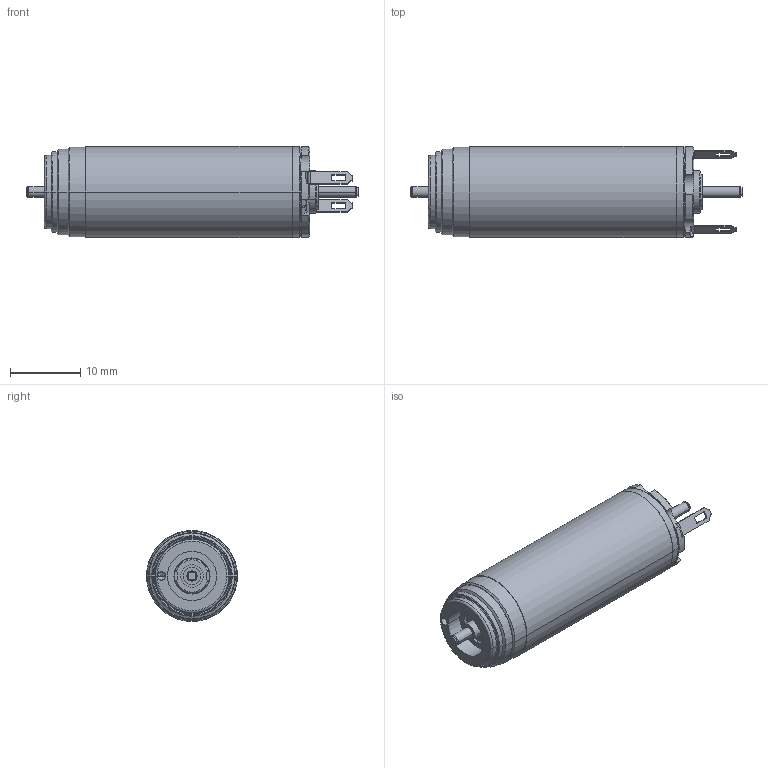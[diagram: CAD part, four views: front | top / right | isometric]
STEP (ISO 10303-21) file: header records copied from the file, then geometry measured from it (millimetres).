
FILE_DESCRIPTION((''),'2;1');
FILE_NAME('118628_3W_2WE_G_SW0001','2016-08-22T',('mmagpetk'),(''),'CREO PARAMETRIC BY PTC INC, 2016050','CREO PARAMETRIC BY PTC INC, 2016050','');
FILE_SCHEMA(('CONFIG_CONTROL_DESIGN'));
Length unit declared in the file: millimetre
Products named in the file (1): 118628_3W_2WE_G_SW0001
Bounding box: 47.4 x 13 x 13 mm (x, y, z)
Volume: 4835.7 mm3; surface area: 2343.6 mm2
Topology: 1 solids, 2 shells, 305 faces, 774 edges, 482 vertices
Faces by surface type: plane 118, cylinder 118, cone 53, torus 12, bspline 4
Entity records: 11984 total; most frequent: CARTESIAN_POINT 1991, DIRECTION 1671, ORIENTED_EDGE 1544, PRESENTATION_STYLE_ASSIGNMENT 773, STYLED_ITEM 773, CURVE_STYLE 772, EDGE_CURVE 772, AXIS2_PLACEMENT_3D 649
